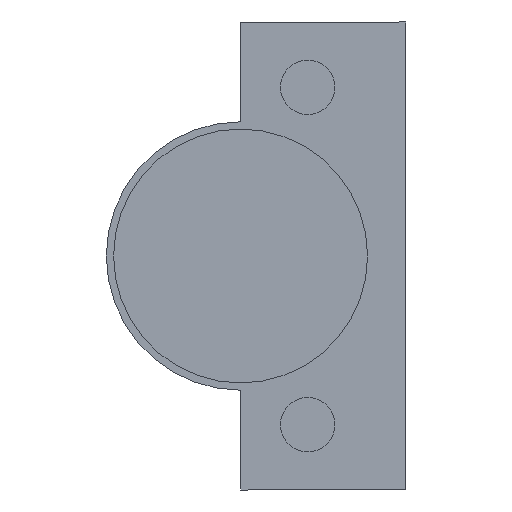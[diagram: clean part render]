
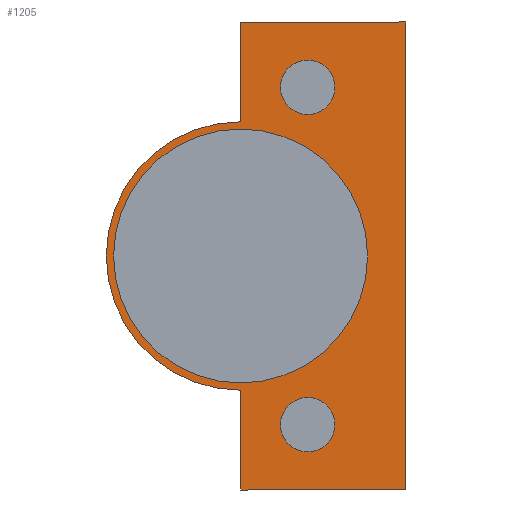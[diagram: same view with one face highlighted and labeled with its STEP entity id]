
A CAD part, front view. The second image highlights one B-rep face of the part: STEP entity #1205.
In plain terms, the highlighted planar face has unit normal (0, -1, 0).
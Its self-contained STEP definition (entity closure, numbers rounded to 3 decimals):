
#11 = AXIS2_PLACEMENT_3D ( 'NONE', #1252, #1251, #1250 ) ;
#28 = AXIS2_PLACEMENT_3D ( 'NONE', #885, #827, #826 ) ;
#53 = EDGE_CURVE ( 'NONE', #607, #593, #433, .T. ) ;
#67 = EDGE_CURVE ( 'NONE', #604, #607, #450, .T. ) ;
#77 = AXIS2_PLACEMENT_3D ( 'NONE', #1120, #1113, #1142 ) ;
#84 = AXIS2_PLACEMENT_3D ( 'NONE', #1130, #1117, #1119 ) ;
#89 = AXIS2_PLACEMENT_3D ( 'NONE', #893, #725, #724 ) ;
#97 = AXIS2_PLACEMENT_3D ( 'NONE', #907, #831, #744 ) ;
#103 = EDGE_CURVE ( 'NONE', #638, #558, #457, .T. ) ;
#108 = EDGE_CURVE ( 'NONE', #623, #604, #461, .T. ) ;
#122 = AXIS2_PLACEMENT_3D ( 'NONE', #559, #1262, #1261 ) ;
#135 = EDGE_CURVE ( 'NONE', #644, #639, #501, .T. ) ;
#140 = AXIS2_PLACEMENT_3D ( 'NONE', #689, #872, #879 ) ;
#141 = EDGE_CURVE ( 'NONE', #558, #638, #508, .T. ) ;
#152 = EDGE_CURVE ( 'NONE', #639, #644, #522, .T. ) ;
#189 = EDGE_CURVE ( 'NONE', #627, #623, #1313, .T. ) ;
#208 = EDGE_CURVE ( 'NONE', #627, #594, #1355, .T. ) ;
#215 = EDGE_CURVE ( 'NONE', #661, #642, #1368, .T. ) ;
#218 = EDGE_CURVE ( 'NONE', #593, #594, #1369, .T. ) ;
#219 = EDGE_CURVE ( 'NONE', #642, #661, #1373, .T. ) ;
#263 = ORIENTED_EDGE ( 'NONE', *, *, #141, .F. ) ;
#264 = ORIENTED_EDGE ( 'NONE', *, *, #103, .F. ) ;
#265 = ORIENTED_EDGE ( 'NONE', *, *, #135, .T. ) ;
#266 = ORIENTED_EDGE ( 'NONE', *, *, #152, .T. ) ;
#267 = ORIENTED_EDGE ( 'NONE', *, *, #219, .T. ) ;
#268 = ORIENTED_EDGE ( 'NONE', *, *, #215, .T. ) ;
#269 = ORIENTED_EDGE ( 'NONE', *, *, #108, .F. ) ;
#270 = ORIENTED_EDGE ( 'NONE', *, *, #67, .F. ) ;
#271 = ORIENTED_EDGE ( 'NONE', *, *, #53, .F. ) ;
#272 = ORIENTED_EDGE ( 'NONE', *, *, #218, .F. ) ;
#273 = ORIENTED_EDGE ( 'NONE', *, *, #208, .T. ) ;
#274 = ORIENTED_EDGE ( 'NONE', *, *, #189, .F. ) ;
#433 = LINE ( 'NONE', #553, #443 ) ;
#443 = VECTOR ( 'NONE', #556, 1000. ) ;
#450 = LINE ( 'NONE', #1269, #451 ) ;
#451 = VECTOR ( 'NONE', #1268, 1000. ) ;
#457 = CIRCLE ( 'NONE', #122, 17.5 ) ;
#461 = CIRCLE ( 'NONE', #11, 18.5 ) ;
#501 = CIRCLE ( 'NONE', #97, 3.75 ) ;
#508 = CIRCLE ( 'NONE', #140, 17.5 ) ;
#522 = CIRCLE ( 'NONE', #89, 3.75 ) ;
#553 = CARTESIAN_POINT ( 'NONE',  ( 25.25, 0., 32.25 ) ) ;
#556 = DIRECTION ( 'NONE',  ( 1., 0., 0. ) ) ;
#558 = VERTEX_POINT ( 'NONE', #1063 ) ;
#559 = CARTESIAN_POINT ( 'NONE',  ( 2.5, 0., 0. ) ) ;
#593 = VERTEX_POINT ( 'NONE', #1076 ) ;
#594 = VERTEX_POINT ( 'NONE', #1075 ) ;
#604 = VERTEX_POINT ( 'NONE', #1100 ) ;
#607 = VERTEX_POINT ( 'NONE', #1079 ) ;
#623 = VERTEX_POINT ( 'NONE', #1054 ) ;
#627 = VERTEX_POINT ( 'NONE', #1053 ) ;
#638 = VERTEX_POINT ( 'NONE', #1006 ) ;
#639 = VERTEX_POINT ( 'NONE', #1005 ) ;
#642 = VERTEX_POINT ( 'NONE', #1010 ) ;
#644 = VERTEX_POINT ( 'NONE', #1008 ) ;
#661 = VERTEX_POINT ( 'NONE', #1022 ) ;
#689 = CARTESIAN_POINT ( 'NONE',  ( 2.5, 0., 0. ) ) ;
#724 = DIRECTION ( 'NONE',  ( -1., 0., 0. ) ) ;
#725 = DIRECTION ( 'NONE',  ( 0., 1., 0. ) ) ;
#744 = DIRECTION ( 'NONE',  ( -1., 0., 0. ) ) ;
#758 = CARTESIAN_POINT ( 'NONE',  ( 2.5, 0., -31. ) ) ;
#826 = DIRECTION ( 'NONE',  ( -1., 0., 0. ) ) ;
#827 = DIRECTION ( 'NONE',  ( 0., 1., 0. ) ) ;
#831 = DIRECTION ( 'NONE',  ( 0., 1., 0. ) ) ;
#872 = DIRECTION ( 'NONE',  ( 0., -1., 0. ) ) ;
#879 = DIRECTION ( 'NONE',  ( -1., 0., 0. ) ) ;
#885 = CARTESIAN_POINT ( 'NONE',  ( 2.5, 0., 0. ) ) ;
#890 = PLANE ( 'NONE',  #28 ) ;
#893 = CARTESIAN_POINT ( 'NONE',  ( 11.75, 0., 23.25 ) ) ;
#907 = CARTESIAN_POINT ( 'NONE',  ( 11.75, 0., 23.25 ) ) ;
#1005 = CARTESIAN_POINT ( 'NONE',  ( 8., 0., 23.25 ) ) ;
#1006 = CARTESIAN_POINT ( 'NONE',  ( -15., 0., 0. ) ) ;
#1008 = CARTESIAN_POINT ( 'NONE',  ( 15.5, 0., 23.25 ) ) ;
#1010 = CARTESIAN_POINT ( 'NONE',  ( 15.5, 0., -23.25 ) ) ;
#1022 = CARTESIAN_POINT ( 'NONE',  ( 8., 0., -23.25 ) ) ;
#1053 = CARTESIAN_POINT ( 'NONE',  ( 2.5, 0., -32.25 ) ) ;
#1054 = CARTESIAN_POINT ( 'NONE',  ( 2.5, 0., -18.5 ) ) ;
#1063 = CARTESIAN_POINT ( 'NONE',  ( 20., 0., 0. ) ) ;
#1075 = CARTESIAN_POINT ( 'NONE',  ( 25.25, 0., -32.25 ) ) ;
#1076 = CARTESIAN_POINT ( 'NONE',  ( 25.25, 0., 32.25 ) ) ;
#1079 = CARTESIAN_POINT ( 'NONE',  ( 2.5, 0., 32.25 ) ) ;
#1100 = CARTESIAN_POINT ( 'NONE',  ( 2.5, 0., 18.5 ) ) ;
#1110 = CARTESIAN_POINT ( 'NONE',  ( 25.25, 0., 32.25 ) ) ;
#1111 = DIRECTION ( 'NONE',  ( 0., 0., -1. ) ) ;
#1113 = DIRECTION ( 'NONE',  ( 0., 1., 0. ) ) ;
#1117 = DIRECTION ( 'NONE',  ( 0., 1., 0. ) ) ;
#1119 = DIRECTION ( 'NONE',  ( -1., 0., 0. ) ) ;
#1120 = CARTESIAN_POINT ( 'NONE',  ( 11.75, 0., -23.25 ) ) ;
#1130 = CARTESIAN_POINT ( 'NONE',  ( 11.75, 0., -23.25 ) ) ;
#1136 = DIRECTION ( 'NONE',  ( 1., 0., 0. ) ) ;
#1137 = CARTESIAN_POINT ( 'NONE',  ( 25.25, 0., -32.25 ) ) ;
#1142 = DIRECTION ( 'NONE',  ( -1., 0., 0. ) ) ;
#1173 = DIRECTION ( 'NONE',  ( 0., 0., 1. ) ) ;
#1205 = ADVANCED_FACE ( 'NONE', ( #1416, #1420, #1422, #1424 ), #890, .F. ) ;
#1250 = DIRECTION ( 'NONE',  ( -1., 0., 0. ) ) ;
#1251 = DIRECTION ( 'NONE',  ( 0., 1., 0. ) ) ;
#1252 = CARTESIAN_POINT ( 'NONE',  ( 2.5, 0., 0. ) ) ;
#1261 = DIRECTION ( 'NONE',  ( -1., 0., 0. ) ) ;
#1262 = DIRECTION ( 'NONE',  ( 0., -1., 0. ) ) ;
#1268 = DIRECTION ( 'NONE',  ( 0., 0., 1. ) ) ;
#1269 = CARTESIAN_POINT ( 'NONE',  ( 2.5, 0., 18.5 ) ) ;
#1313 = LINE ( 'NONE', #758, #1319 ) ;
#1319 = VECTOR ( 'NONE', #1173, 1000. ) ;
#1355 = LINE ( 'NONE', #1137, #1356 ) ;
#1356 = VECTOR ( 'NONE', #1136, 1000. ) ;
#1368 = CIRCLE ( 'NONE', #84, 3.75 ) ;
#1369 = LINE ( 'NONE', #1110, #1370 ) ;
#1370 = VECTOR ( 'NONE', #1111, 1000. ) ;
#1373 = CIRCLE ( 'NONE', #77, 3.75 ) ;
#1416 = FACE_OUTER_BOUND ( 'NONE', #1542, .T. ) ;
#1420 = FACE_BOUND ( 'NONE', #1564, .T. ) ;
#1422 = FACE_BOUND ( 'NONE', #1499, .T. ) ;
#1424 = FACE_BOUND ( 'NONE', #1575, .T. ) ;
#1499 = EDGE_LOOP ( 'NONE', ( #266, #265 ) ) ;
#1542 = EDGE_LOOP ( 'NONE', ( #274, #273, #272, #271, #270, #269 ) ) ;
#1564 = EDGE_LOOP ( 'NONE', ( #268, #267 ) ) ;
#1575 = EDGE_LOOP ( 'NONE', ( #264, #263 ) ) ;
